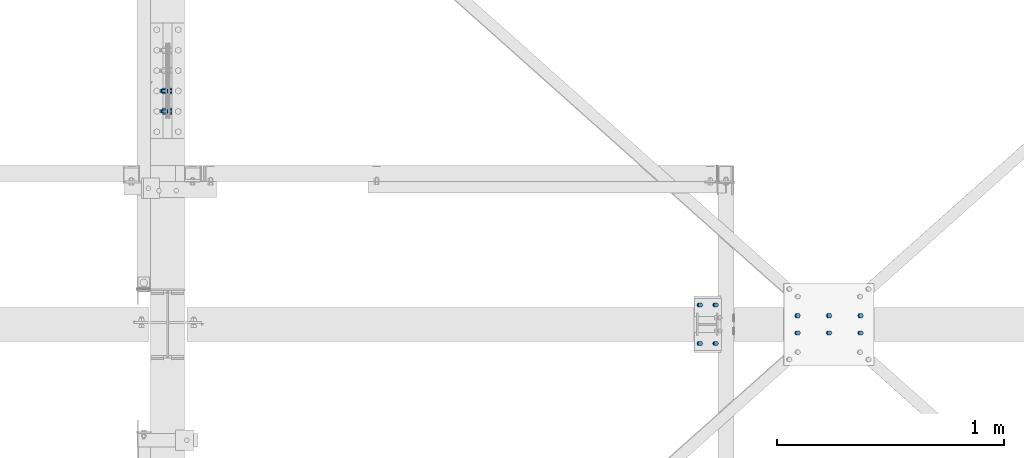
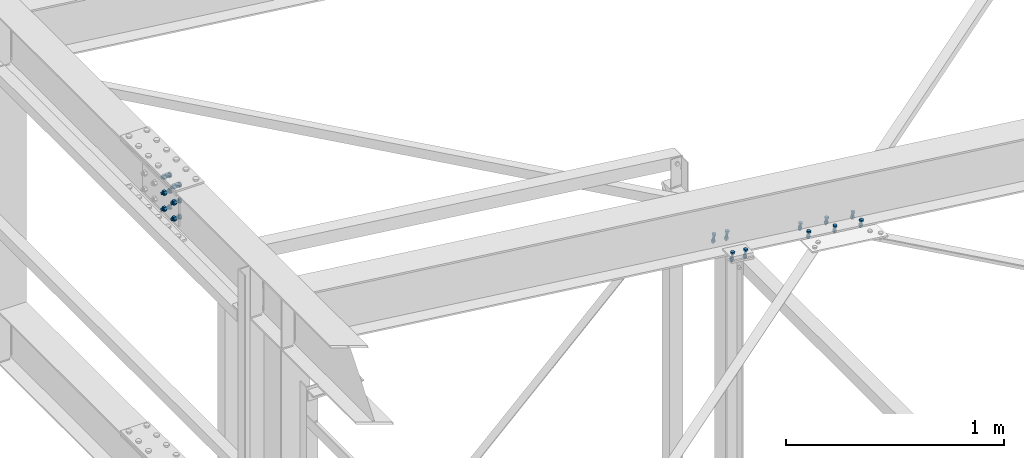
# One storey, part 160 of 3134: 4 mechanical fasteners, 3 elements without a shape of their own.
"""IFC2X3 building model written with IfcOpenShell, lengths in millimetres."""

from ifc_helpers import new_model, si_unit, frame, origin_with_axes, place, context, subcontext, project, spatial, faceted_brep, source, transform, mapped, material, type_object, element, aggregate, save


model = new_model("IFC2X3")

# Units and contexts
model_context = context("Model", 3, precision=1e-05, world=origin_with_axes())
body_context = subcontext(model_context, "Body", "Model", "MODEL_VIEW")
ifc_project = project(units=[si_unit("LENGTHUNIT", "METRE", prefix="MILLI"), si_unit("AREAUNIT", "SQUARE_METRE"), si_unit("VOLUMEUNIT", "CUBIC_METRE"), si_unit("MASSUNIT", "GRAM", prefix="KILO"), si_unit("TIMEUNIT", "SECOND"), si_unit("PLANEANGLEUNIT", "RADIAN"), si_unit("SOLIDANGLEUNIT", "STERADIAN"), si_unit("THERMODYNAMICTEMPERATUREUNIT", "DEGREE_CELSIUS"), si_unit("LUMINOUSINTENSITYUNIT", "LUMEN")], contexts=[model_context])

# Site, building, storey
site_placement = place(None, origin_with_axes())
site = spatial("IfcSite", under=ifc_project, at=site_placement, CompositionType="ELEMENT")
building_placement = place(site_placement, origin_with_axes())
building = spatial("IfcBuilding", under=site, at=building_placement, Name="Undefined", CompositionType="ELEMENT")
storey_placement = place(building_placement, origin_with_axes())
storey = spatial("IfcBuildingStorey", under=building, at=storey_placement, Name="Undefined", CompositionType="ELEMENT", Elevation=0.0)

# Assembly, mechanical fasteners
assembly_1_placement = place(storey_placement, origin_with_axes())
assembly_1 = element("IfcElementAssembly", 1, at=assembly_1_placement, inside=storey, Name="HEA100", AssemblyPlace="NOTDEFINED", PredefinedType="RIGID_FRAME")
ifc_material = material(Name="8.8")
mechanical_fastener_type = type_object("IfcMechanicalFastenerType", Name="Bolt assembly")
shared_shape_1 = source(origin_with_axes(), body_context, "Body", "Brep", [
    faceted_brep([(10.9696551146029, -36.0009821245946, 0.0), (5.48482755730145, -36.0009821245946, 9.5), (-5.48482755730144, -36.0009821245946, 9.5), (-10.9696551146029, -36.0009821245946, 1.34339530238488e-15), (-5.48482755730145, -36.0009821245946, -9.5), (5.48482755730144, -36.0009821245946, -9.50000000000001), (5.48482755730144, -28.0009821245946, -9.50000000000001), (-5.48482755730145, -28.0009821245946, -9.5), (-10.9696551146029, -28.0009821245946, 1.34339530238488e-15), (-5.48482755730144, -28.0009821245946, 9.5), (5.48482755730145, -28.0009821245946, 9.5), (10.9696551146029, -28.0009821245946, 0.0), (6.0, -28.0009821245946, 0.0), (5.19615242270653, -28.0009821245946, 3.00000000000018), (2.99999999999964, -28.0009821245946, 5.19615242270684), (-6.21801588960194e-13, -28.0009821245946, 6.0), (-3.00000000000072, -28.0009821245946, 5.19615242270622), (-5.19615242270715, -28.0009821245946, 2.9999999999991), (-6.0, -28.0009821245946, -1.24360317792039e-12), (-5.19615242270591, -28.0009821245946, -3.00000000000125), (-2.99999999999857, -28.0009821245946, -5.19615242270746), (1.85874342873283e-12, -28.0009821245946, -6.0), (3.00000000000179, -28.0009821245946, -5.1961524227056), (5.19615242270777, -28.0009821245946, -2.99999999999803), (5.19615242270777, 16.9990178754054, -2.99999999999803), (3.00000000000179, 16.9990178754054, -5.1961524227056), (1.85874342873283e-12, 16.9990178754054, -6.0), (-2.99999999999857, 16.9990178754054, -5.19615242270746), (-5.19615242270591, 16.9990178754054, -3.00000000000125), (-6.0, 16.9990178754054, -1.24360317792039e-12), (-5.19615242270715, 16.9990178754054, 2.9999999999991), (-3.00000000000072, 16.9990178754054, 5.19615242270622), (-6.21801588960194e-13, 16.9990178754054, 6.0), (2.99999999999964, 16.9990178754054, 5.19615242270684), (5.19615242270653, 16.9990178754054, 3.00000000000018), (6.0, 16.9990178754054, 0.0), (10.9696551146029, -0.000982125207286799, 0.0), (5.48482755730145, -0.000982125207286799, 9.5), (-5.48482755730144, -0.000982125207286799, 9.5), (-10.9696551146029, -0.000982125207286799, 1.34339530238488e-15), (-5.48482755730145, -0.000982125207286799, -9.5), (5.48482755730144, -0.000982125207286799, -9.50000000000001), (5.48482755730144, 9.99901787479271, -9.50000000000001), (-5.48482755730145, 9.99901787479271, -9.5), (-10.9696551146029, 9.99901787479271, 1.34339530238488e-15), (-5.48482755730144, 9.99901787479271, 9.5), (5.48482755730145, 9.99901787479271, 9.5), (10.9696551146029, 9.99901787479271, 0.0)], [[[0, 1, 2, 3, 4, 5]], [[6, 7, 8, 9, 10, 11]], [[0, 11, 10, 1]], [[1, 10, 9, 2]], [[2, 9, 8, 3]], [[3, 8, 7, 4]], [[4, 7, 6, 5]], [[5, 6, 11, 0]], [[12, 13, 14, 15, 16, 17, 18, 19, 20, 21, 22, 23]], [[24, 25, 26, 27, 28, 29, 30, 31, 32, 33, 34, 35]], [[12, 35, 34, 13]], [[13, 34, 33, 14]], [[14, 33, 32, 15]], [[15, 32, 31, 16]], [[16, 31, 30, 17]], [[17, 30, 29, 18]], [[18, 29, 28, 19]], [[19, 28, 27, 20]], [[20, 27, 26, 21]], [[21, 26, 25, 22]], [[22, 25, 24, 23]], [[23, 24, 35, 12]], [[36, 37, 38, 39, 40, 41]], [[42, 43, 44, 45, 46, 47]], [[36, 47, 46, 37]], [[37, 46, 45, 38]], [[38, 45, 44, 39]], [[39, 44, 43, 40]], [[40, 43, 42, 41]], [[41, 42, 47, 36]]]),
    faceted_brep([(7.0, -27.9009821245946, 0.0), (6.06217782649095, -27.9009821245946, 3.50000000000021), (3.49999999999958, -27.9009821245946, 6.06217782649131), (-7.25435187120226e-13, -27.9009821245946, 7.0), (-3.50000000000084, -27.9009821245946, 6.06217782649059), (-6.06217782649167, -27.9009821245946, 3.49999999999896), (-7.0, -27.9009821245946, -1.45087037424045e-12), (-6.06217782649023, -27.9009821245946, -3.50000000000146), (-3.49999999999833, -27.9009821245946, -6.06217782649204), (2.1685340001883e-12, -27.9009821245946, -7.0), (3.50000000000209, -27.9009821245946, -6.06217782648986), (6.0621778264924, -27.9009821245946, -3.4999999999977), (6.0621778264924, -19.9009821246, -3.4999999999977), (3.50000000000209, -19.9009821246, -6.06217782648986), (2.1685340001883e-12, -19.9009821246, -7.0), (-3.49999999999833, -19.9009821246, -6.06217782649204), (-6.06217782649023, -19.9009821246, -3.50000000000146), (-7.0, -19.9009821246, -1.45087037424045e-12), (-6.06217782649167, -19.9009821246, 3.49999999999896), (-3.50000000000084, -19.9009821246, 6.06217782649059), (-7.25435187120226e-13, -19.9009821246, 7.0), (3.49999999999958, -19.9009821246, 6.06217782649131), (6.06217782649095, -19.9009821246, 3.50000000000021), (7.0, -19.9009821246, 0.0), (7.0, -10.1009821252, 0.0), (6.06217782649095, -10.1009821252, 3.50000000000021), (3.49999999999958, -10.1009821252, 6.06217782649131), (-7.25435187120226e-13, -10.1009821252, 7.0), (-3.50000000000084, -10.1009821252, 6.06217782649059), (-6.06217782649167, -10.1009821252, 3.49999999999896), (-7.0, -10.1009821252, -1.45087037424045e-12), (-6.06217782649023, -10.1009821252, -3.50000000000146), (-3.49999999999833, -10.1009821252, -6.06217782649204), (2.1685340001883e-12, -10.1009821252, -7.0), (3.50000000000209, -10.1009821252, -6.06217782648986), (6.0621778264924, -10.1009821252, -3.4999999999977), (6.0621778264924, -0.000982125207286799, -3.4999999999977), (3.50000000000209, -0.000982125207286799, -6.06217782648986), (2.1685340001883e-12, -0.000982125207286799, -7.0), (-3.49999999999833, -0.000982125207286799, -6.06217782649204), (-6.06217782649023, -0.000982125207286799, -3.50000000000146), (-7.0, -0.000982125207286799, -1.45087037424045e-12), (-6.06217782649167, -0.000982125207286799, 3.49999999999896), (-3.50000000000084, -0.000982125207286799, 6.06217782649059), (-7.25435187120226e-13, -0.000982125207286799, 7.0), (3.49999999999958, -0.000982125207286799, 6.06217782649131), (6.06217782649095, -0.000982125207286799, 3.50000000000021), (7.0, -0.000982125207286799, 0.0)], [[[0, 1, 2, 3, 4, 5, 6, 7, 8, 9, 10, 11]], [[12, 13, 14, 15, 16, 17, 18, 19, 20, 21, 22, 23]], [[0, 23, 22, 1]], [[1, 22, 21, 2]], [[2, 21, 20, 3]], [[3, 20, 19, 4]], [[4, 19, 18, 5]], [[5, 18, 17, 6]], [[6, 17, 16, 7]], [[7, 16, 15, 8]], [[8, 15, 14, 9]], [[9, 14, 13, 10]], [[10, 13, 12, 11]], [[11, 12, 23, 0]], [[24, 25, 26, 27, 28, 29, 30, 31, 32, 33, 34, 35]], [[36, 37, 38, 39, 40, 41, 42, 43, 44, 45, 46, 47]], [[24, 47, 46, 25]], [[25, 46, 45, 26]], [[26, 45, 44, 27]], [[27, 44, 43, 28]], [[28, 43, 42, 29]], [[29, 42, 41, 30]], [[30, 41, 40, 31]], [[31, 40, 39, 32]], [[32, 39, 38, 33]], [[33, 38, 37, 34]], [[34, 37, 36, 35]], [[35, 36, 47, 24]]]),
])
mechanical_fastener_1_placement = place(assembly_1_placement, frame((58222.2532611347, 27335.0, 5223.02085935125), z_axis=(0.0, 1.0, 0.0), x_axis=(0.992623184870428, 0.0, -0.121240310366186)))
mechanical_fastener_1 = element("IfcMechanicalFastener", 2, at=mechanical_fastener_1_placement, type_object=mechanical_fastener_type, material=ifc_material, Name="Bolt assembly", NominalDiameter=12.0, NominalLength=45.0, context=body_context, shape_type="MappedRepresentation", body=[
    mapped(shared_shape_1, transform((0.0, 0.0, 0.0))),
    mapped(shared_shape_1, transform((70.0000000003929, -2.94676283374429e-10, 0.0))),
])
mechanical_fastener_2_placement = place(assembly_1_placement, frame((58222.2532611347, 27165.0, 5223.02085935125), z_axis=(0.0, 1.0, 0.0), x_axis=(0.992623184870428, 0.0, -0.121240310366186)))
mechanical_fastener_2 = element("IfcMechanicalFastener", 3, at=mechanical_fastener_2_placement, type_object=mechanical_fastener_type, material=ifc_material, Name="Bolt assembly", NominalDiameter=12.0, NominalLength=45.0, context=body_context, shape_type="MappedRepresentation", body=[
    mapped(shared_shape_1, transform((0.0, 0.0, 0.0))),
    mapped(shared_shape_1, transform((70.0000000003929, -2.94676283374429e-10, 0.0))),
])
aggregate(assembly_1, [mechanical_fastener_1, mechanical_fastener_2])

# Assembly, mechanical fastener
assembly_2_placement = place(storey_placement, origin_with_axes())
assembly_2 = element("IfcElementAssembly", 4, at=assembly_2_placement, inside=storey, Name="300", AssemblyPlace="NOTDEFINED", PredefinedType="RIGID_FRAME")
shared_shape_2 = source(origin_with_axes(), body_context, "Body", "Brep", [
    faceted_brep([(10.9696551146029, -17.1999998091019, 0.0), (5.48482755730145, -17.1999998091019, 9.5), (-5.48482755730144, -17.1999998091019, 9.5), (-10.9696551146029, -17.1999998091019, 1.34339530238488e-15), (-5.48482755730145, -17.1999998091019, -9.5), (5.48482755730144, -17.1999998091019, -9.50000000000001), (5.48482755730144, -9.19999978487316, -9.50000000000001), (-5.48482755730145, -9.19999978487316, -9.5), (-10.9696551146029, -9.19999978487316, 1.34339530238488e-15), (-5.48482755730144, -9.19999978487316, 9.5), (5.48482755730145, -9.19999978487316, 9.5), (10.9696551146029, -9.19999978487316, 0.0), (6.0, -9.19999978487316, 0.0), (5.19615242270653, -9.19999978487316, 3.00000000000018), (2.99999999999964, -9.19999978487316, 5.19615242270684), (-6.21801588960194e-13, -9.19999978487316, 6.0), (-3.00000000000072, -9.19999978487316, 5.19615242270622), (-5.19615242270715, -9.19999978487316, 2.9999999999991), (-6.0, -9.19999978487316, -1.24360317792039e-12), (-5.19615242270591, -9.19999978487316, -3.00000000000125), (-2.99999999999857, -9.19999978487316, -5.19615242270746), (1.85874342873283e-12, -9.19999978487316, -6.0), (3.00000000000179, -9.19999978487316, -5.1961524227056), (5.19615242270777, -9.19999978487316, -2.99999999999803), (5.19615242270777, 25.8000002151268, -2.99999999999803), (3.00000000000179, 25.8000002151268, -5.1961524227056), (1.85874342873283e-12, 25.8000002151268, -6.0), (-2.99999999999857, 25.8000002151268, -5.19615242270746), (-5.19615242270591, 25.8000002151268, -3.00000000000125), (-6.0, 25.8000002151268, -1.24360317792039e-12), (-5.19615242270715, 25.8000002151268, 2.9999999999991), (-3.00000000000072, 25.8000002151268, 5.19615242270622), (-6.21801588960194e-13, 25.8000002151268, 6.0), (2.99999999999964, 25.8000002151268, 5.19615242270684), (5.19615242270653, 25.8000002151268, 3.00000000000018), (6.0, 25.8000002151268, 0.0), (10.9696551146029, 8.0, 0.0), (5.48482755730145, 8.0, 9.5), (-5.48482755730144, 8.0, 9.5), (-10.9696551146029, 8.0, 1.34339530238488e-15), (-5.48482755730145, 8.0, -9.5), (5.48482755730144, 8.0, -9.50000000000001), (5.48482755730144, 18.0, -9.50000000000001), (-5.48482755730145, 18.0, -9.5), (-10.9696551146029, 18.0, 1.34339530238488e-15), (-5.48482755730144, 18.0, 9.5), (5.48482755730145, 18.0, 9.5), (10.9696551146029, 18.0, 0.0)], [[[0, 1, 2, 3, 4, 5]], [[6, 7, 8, 9, 10, 11]], [[0, 11, 10, 1]], [[1, 10, 9, 2]], [[2, 9, 8, 3]], [[3, 8, 7, 4]], [[4, 7, 6, 5]], [[5, 6, 11, 0]], [[12, 13, 14, 15, 16, 17, 18, 19, 20, 21, 22, 23]], [[24, 25, 26, 27, 28, 29, 30, 31, 32, 33, 34, 35]], [[12, 35, 34, 13]], [[13, 34, 33, 14]], [[14, 33, 32, 15]], [[15, 32, 31, 16]], [[16, 31, 30, 17]], [[17, 30, 29, 18]], [[18, 29, 28, 19]], [[19, 28, 27, 20]], [[20, 27, 26, 21]], [[21, 26, 25, 22]], [[22, 25, 24, 23]], [[23, 24, 35, 12]], [[36, 37, 38, 39, 40, 41]], [[42, 43, 44, 45, 46, 47]], [[36, 47, 46, 37]], [[37, 46, 45, 38]], [[38, 45, 44, 39]], [[39, 44, 43, 40]], [[40, 43, 42, 41]], [[41, 42, 47, 36]]]),
    faceted_brep([(7.0, -0.1, 0.0), (6.06217782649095, -0.1, 3.50000000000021), (3.49999999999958, -0.1, 6.06217782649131), (-7.25435187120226e-13, -0.1, 7.0), (-3.50000000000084, -0.1, 6.06217782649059), (-6.06217782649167, -0.1, 3.49999999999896), (-7.0, -0.1, -1.45087037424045e-12), (-6.06217782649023, -0.1, -3.50000000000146), (-3.49999999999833, -0.1, -6.06217782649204), (2.1685340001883e-12, -0.1, -7.0), (3.50000000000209, -0.1, -6.06217782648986), (6.0621778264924, -0.1, -3.4999999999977), (6.0621778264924, 8.0000000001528, -3.4999999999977), (3.50000000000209, 8.0000000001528, -6.06217782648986), (2.1685340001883e-12, 8.0000000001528, -7.0), (-3.49999999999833, 8.0000000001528, -6.06217782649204), (-6.06217782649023, 8.0000000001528, -3.50000000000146), (-7.0, 8.0000000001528, -1.45087037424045e-12), (-6.06217782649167, 8.0000000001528, 3.49999999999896), (-3.50000000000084, 8.0000000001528, 6.06217782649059), (-7.25435187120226e-13, 8.0000000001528, 7.0), (3.49999999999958, 8.0000000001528, 6.06217782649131), (6.06217782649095, 8.0000000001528, 3.50000000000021), (7.0, 8.0000000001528, 0.0), (7.0, -9.09999980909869, 0.0), (6.06217782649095, -9.09999980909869, 3.50000000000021), (3.49999999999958, -9.09999980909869, 6.06217782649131), (-7.25435187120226e-13, -9.09999980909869, 7.0), (-3.50000000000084, -9.09999980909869, 6.06217782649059), (-6.06217782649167, -9.09999980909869, 3.49999999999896), (-7.0, -9.09999980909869, -1.45087037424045e-12), (-6.06217782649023, -9.09999980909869, -3.50000000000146), (-3.49999999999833, -9.09999980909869, -6.06217782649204), (2.1685340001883e-12, -9.09999980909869, -7.0), (3.50000000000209, -9.09999980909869, -6.06217782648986), (6.0621778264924, -9.09999980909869, -3.4999999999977), (6.0621778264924, 0.0999999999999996, -3.4999999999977), (3.50000000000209, 0.0999999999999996, -6.06217782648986), (2.1685340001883e-12, 0.0999999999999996, -7.0), (-3.49999999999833, 0.0999999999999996, -6.06217782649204), (-6.06217782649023, 0.0999999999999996, -3.50000000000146), (-7.0, 0.0999999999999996, -1.45087037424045e-12), (-6.06217782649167, 0.0999999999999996, 3.49999999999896), (-3.50000000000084, 0.0999999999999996, 6.06217782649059), (-7.25435187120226e-13, 0.0999999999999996, 7.0), (3.49999999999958, 0.0999999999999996, 6.06217782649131), (6.06217782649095, 0.0999999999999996, 3.50000000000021), (7.0, 0.0999999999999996, 0.0)], [[[0, 1, 2, 3, 4, 5, 6, 7, 8, 9, 10, 11]], [[12, 13, 14, 15, 16, 17, 18, 19, 20, 21, 22, 23]], [[0, 23, 22, 1]], [[1, 22, 21, 2]], [[2, 21, 20, 3]], [[3, 20, 19, 4]], [[4, 19, 18, 5]], [[5, 18, 17, 6]], [[6, 17, 16, 7]], [[7, 16, 15, 8]], [[8, 15, 14, 9]], [[9, 14, 13, 10]], [[10, 13, 12, 11]], [[11, 12, 23, 0]], [[24, 25, 26, 27, 28, 29, 30, 31, 32, 33, 34, 35]], [[36, 37, 38, 39, 40, 41, 42, 43, 44, 45, 46, 47]], [[24, 47, 46, 25]], [[25, 46, 45, 26]], [[26, 45, 44, 27]], [[27, 44, 43, 28]], [[28, 43, 42, 29]], [[29, 42, 41, 30]], [[30, 41, 40, 31]], [[31, 40, 39, 32]], [[32, 39, 38, 33]], [[33, 38, 37, 34]], [[34, 37, 36, 35]], [[35, 36, 47, 24]]]),
])
mechanical_fastener_3_placement = place(assembly_2_placement, frame((58933.2022067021, 27250.0, 5146.25993625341), z_axis=(0.0, -1.0, 0.0), x_axis=(-0.992623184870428, 0.0, 0.121240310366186)))
mechanical_fastener_3 = element("IfcMechanicalFastener", 5, at=mechanical_fastener_3_placement, type_object=mechanical_fastener_type, material=ifc_material, Name="Bolt assembly", NominalDiameter=12.0, NominalLength=35.0, context=body_context, shape_type="MappedRepresentation", body=[
    mapped(shared_shape_2, transform((0.0, 0.0, -38.0))),
    mapped(shared_shape_2, transform((140.000000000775, 5.85714587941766e-10, -38.0))),
    mapped(shared_shape_2, transform((279.999999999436, -4.74756234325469e-10, -38.0))),
    mapped(shared_shape_2, transform((0.0, 0.0, 38.0))),
    mapped(shared_shape_2, transform((140.000000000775, 5.85714587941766e-10, 38.0))),
    mapped(shared_shape_2, transform((279.999999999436, -4.74756234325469e-10, 38.0))),
])
aggregate(assembly_2, [mechanical_fastener_3])

assembly_3_placement = place(storey_placement, origin_with_axes())
assembly_3 = element("IfcElementAssembly", 6, at=assembly_3_placement, inside=storey, Name="300", AssemblyPlace="NOTDEFINED", PredefinedType="RIGID_FRAME")
shared_shape_3 = source(origin_with_axes(), body_context, "Body", "Brep", [
    faceted_brep([(13.856406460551, -19.0499999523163, 0.0), (6.92820323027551, -19.0499999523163, 12.0), (-6.92820323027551, -19.0499999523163, 12.0), (-13.856406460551, -19.0499999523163, 1.69692038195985e-15), (-6.92820323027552, -19.0499999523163, -12.0), (6.9282032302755, -19.0499999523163, -12.0), (6.9282032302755, -9.04999995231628, -12.0), (-6.92820323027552, -9.04999995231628, -12.0), (-13.856406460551, -9.04999995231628, 1.69692038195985e-15), (-6.92820323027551, -9.04999995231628, 12.0), (6.92820323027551, -9.04999995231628, 12.0), (13.856406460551, -9.04999995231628, 0.0), (8.0, -9.04999995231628, 0.0), (6.92820323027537, -9.04999995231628, 4.00000000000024), (3.99999999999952, -9.04999995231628, 6.92820323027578), (-8.29068785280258e-13, -9.04999995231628, 8.0), (-4.00000000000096, -9.04999995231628, 6.92820323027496), (-6.9282032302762, -9.04999995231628, 3.99999999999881), (-8.0, -9.04999995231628, -1.65813757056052e-12), (-6.92820323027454, -9.04999995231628, -4.00000000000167), (-3.99999999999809, -9.04999995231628, -6.92820323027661), (2.47832457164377e-12, -9.04999995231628, -8.0), (4.00000000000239, -9.04999995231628, -6.92820323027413), (6.92820323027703, -9.04999995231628, -3.99999999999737), (6.92820323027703, 30.9500000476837, -3.99999999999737), (4.00000000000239, 30.9500000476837, -6.92820323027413), (2.47832457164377e-12, 30.9500000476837, -8.0), (-3.99999999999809, 30.9500000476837, -6.92820323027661), (-6.92820323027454, 30.9500000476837, -4.00000000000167), (-8.0, 30.9500000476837, -1.65813757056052e-12), (-6.9282032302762, 30.9500000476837, 3.99999999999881), (-4.00000000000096, 30.9500000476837, 6.92820323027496), (-8.29068785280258e-13, 30.9500000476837, 8.0), (3.99999999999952, 30.9500000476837, 6.92820323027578), (6.92820323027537, 30.9500000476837, 4.00000000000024), (8.0, 30.9500000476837, 0.0), (13.856406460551, 9.04999995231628, 0.0), (6.92820323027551, 9.04999995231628, 12.0), (-6.92820323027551, 9.04999995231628, 12.0), (-13.856406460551, 9.04999995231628, 1.69692038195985e-15), (-6.92820323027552, 9.04999995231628, -12.0), (6.9282032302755, 9.04999995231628, -12.0), (6.9282032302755, 22.0499999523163, -12.0), (-6.92820323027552, 22.0499999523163, -12.0), (-13.856406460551, 22.0499999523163, 1.69692038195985e-15), (-6.92820323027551, 22.0499999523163, 12.0), (6.92820323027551, 22.0499999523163, 12.0), (13.856406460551, 22.0499999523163, 0.0)], [[[0, 1, 2, 3, 4, 5]], [[6, 7, 8, 9, 10, 11]], [[0, 11, 10, 1]], [[1, 10, 9, 2]], [[2, 9, 8, 3]], [[3, 8, 7, 4]], [[4, 7, 6, 5]], [[5, 6, 11, 0]], [[12, 13, 14, 15, 16, 17, 18, 19, 20, 21, 22, 23]], [[24, 25, 26, 27, 28, 29, 30, 31, 32, 33, 34, 35]], [[12, 35, 34, 13]], [[13, 34, 33, 14]], [[14, 33, 32, 15]], [[15, 32, 31, 16]], [[16, 31, 30, 17]], [[17, 30, 29, 18]], [[18, 29, 28, 19]], [[19, 28, 27, 20]], [[20, 27, 26, 21]], [[21, 26, 25, 22]], [[22, 25, 24, 23]], [[23, 24, 35, 12]], [[36, 37, 38, 39, 40, 41]], [[42, 43, 44, 45, 46, 47]], [[36, 47, 46, 37]], [[37, 46, 45, 38]], [[38, 45, 44, 39]], [[39, 44, 43, 40]], [[40, 43, 42, 41]], [[41, 42, 47, 36]]]),
    faceted_brep([(9.0, -8.94999995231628, 0.0), (7.79422863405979, -8.94999995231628, 4.50000000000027), (4.49999999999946, -8.94999995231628, 7.79422863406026), (-9.3270238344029e-13, -8.94999995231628, 9.0), (-4.50000000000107, -8.94999995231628, 7.79422863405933), (-7.79422863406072, -8.94999995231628, 4.49999999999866), (-9.0, -8.94999995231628, -1.86540476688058e-12), (-7.79422863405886, -8.94999995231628, -4.50000000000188), (-4.49999999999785, -8.94999995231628, -7.79422863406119), (2.78811514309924e-12, -8.94999995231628, -9.0), (4.50000000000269, -8.94999995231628, -7.7942286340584), (7.79422863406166, -8.94999995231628, -4.49999999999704), (7.79422863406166, -2.94999995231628, -4.49999999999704), (4.50000000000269, -2.94999995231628, -7.7942286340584), (2.78811514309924e-12, -2.94999995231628, -9.0), (-4.49999999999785, -2.94999995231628, -7.79422863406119), (-7.79422863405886, -2.94999995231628, -4.50000000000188), (-9.0, -2.94999995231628, -1.86540476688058e-12), (-7.79422863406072, -2.94999995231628, 4.49999999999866), (-4.50000000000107, -2.94999995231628, 7.79422863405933), (-9.3270238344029e-13, -2.94999995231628, 9.0), (4.49999999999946, -2.94999995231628, 7.79422863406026), (7.79422863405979, -2.94999995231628, 4.50000000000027), (9.0, -2.94999995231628, 0.0), (9.0, -3.04999995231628, 0.0), (7.79422863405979, -3.04999995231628, 4.50000000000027), (4.49999999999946, -3.04999995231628, 7.79422863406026), (-9.3270238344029e-13, -3.04999995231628, 9.0), (-4.50000000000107, -3.04999995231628, 7.79422863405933), (-7.79422863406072, -3.04999995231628, 4.49999999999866), (-9.0, -3.04999995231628, -1.86540476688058e-12), (-7.79422863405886, -3.04999995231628, -4.50000000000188), (-4.49999999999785, -3.04999995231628, -7.79422863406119), (2.78811514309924e-12, -3.04999995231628, -9.0), (4.50000000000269, -3.04999995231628, -7.7942286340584), (7.79422863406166, -3.04999995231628, -4.49999999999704), (7.79422863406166, 3.04999995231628, -4.49999999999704), (4.50000000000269, 3.04999995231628, -7.7942286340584), (2.78811514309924e-12, 3.04999995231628, -9.0), (-4.49999999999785, 3.04999995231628, -7.79422863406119), (-7.79422863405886, 3.04999995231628, -4.50000000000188), (-9.0, 3.04999995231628, -1.86540476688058e-12), (-7.79422863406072, 3.04999995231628, 4.49999999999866), (-4.50000000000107, 3.04999995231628, 7.79422863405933), (-9.3270238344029e-13, 3.04999995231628, 9.0), (4.49999999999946, 3.04999995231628, 7.79422863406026), (7.79422863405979, 3.04999995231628, 4.50000000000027), (9.0, 3.04999995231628, 0.0), (9.0, 2.95000000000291, 0.0), (7.79422863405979, 2.95000000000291, 4.50000000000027), (4.49999999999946, 2.95000000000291, 7.79422863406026), (-9.3270238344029e-13, 2.95000000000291, 9.0), (-4.50000000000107, 2.95000000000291, 7.79422863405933), (-7.79422863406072, 2.95000000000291, 4.49999999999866), (-9.0, 2.95000000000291, -1.86540476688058e-12), (-7.79422863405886, 2.95000000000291, -4.50000000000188), (-4.49999999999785, 2.95000000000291, -7.79422863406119), (2.78811514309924e-12, 2.95000000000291, -9.0), (4.50000000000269, 2.95000000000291, -7.7942286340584), (7.79422863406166, 2.95000000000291, -4.49999999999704), (7.79422863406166, 9.04999995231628, -4.49999999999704), (4.50000000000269, 9.04999995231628, -7.7942286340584), (2.78811514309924e-12, 9.04999995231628, -9.0), (-4.49999999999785, 9.04999995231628, -7.79422863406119), (-7.79422863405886, 9.04999995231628, -4.50000000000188), (-9.0, 9.04999995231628, -1.86540476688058e-12), (-7.79422863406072, 9.04999995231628, 4.49999999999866), (-4.50000000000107, 9.04999995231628, 7.79422863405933), (-9.3270238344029e-13, 9.04999995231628, 9.0), (4.49999999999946, 9.04999995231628, 7.79422863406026), (7.79422863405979, 9.04999995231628, 4.50000000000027), (9.0, 9.04999995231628, 0.0)], [[[0, 1, 2, 3, 4, 5, 6, 7, 8, 9, 10, 11]], [[12, 13, 14, 15, 16, 17, 18, 19, 20, 21, 22, 23]], [[0, 23, 22, 1]], [[1, 22, 21, 2]], [[2, 21, 20, 3]], [[3, 20, 19, 4]], [[4, 19, 18, 5]], [[5, 18, 17, 6]], [[6, 17, 16, 7]], [[7, 16, 15, 8]], [[8, 15, 14, 9]], [[9, 14, 13, 10]], [[10, 13, 12, 11]], [[11, 12, 23, 0]], [[24, 25, 26, 27, 28, 29, 30, 31, 32, 33, 34, 35]], [[36, 37, 38, 39, 40, 41, 42, 43, 44, 45, 46, 47]], [[24, 47, 46, 25]], [[25, 46, 45, 26]], [[26, 45, 44, 27]], [[27, 44, 43, 28]], [[28, 43, 42, 29]], [[29, 42, 41, 30]], [[30, 41, 40, 31]], [[31, 40, 39, 32]], [[32, 39, 38, 33]], [[33, 38, 37, 34]], [[34, 37, 36, 35]], [[35, 36, 47, 24]], [[48, 49, 50, 51, 52, 53, 54, 55, 56, 57, 58, 59]], [[60, 61, 62, 63, 64, 65, 66, 67, 68, 69, 70, 71]], [[48, 71, 70, 49]], [[49, 70, 69, 50]], [[50, 69, 68, 51]], [[51, 68, 67, 52]], [[52, 67, 66, 53]], [[53, 66, 65, 54]], [[54, 65, 64, 55]], [[55, 64, 63, 56]], [[56, 63, 62, 57]], [[57, 62, 61, 58]], [[58, 61, 60, 59]], [[59, 60, 71, 48]]]),
])
mechanical_fastener_4_placement = place(assembly_3_placement, frame((55875.0, 28189.9, 5741.5), z_axis=(0.0, 0.0, 1.0), x_axis=(0.0, 1.0, 0.0)))
mechanical_fastener_4 = element("IfcMechanicalFastener", 7, at=mechanical_fastener_4_placement, type_object=mechanical_fastener_type, material=ifc_material, Name="Bolt assembly", NominalDiameter=16.0, NominalLength=40.0, context=body_context, shape_type="MappedRepresentation", body=[
    mapped(shared_shape_3, transform((0.0, 0.0, -90.0))),
    mapped(shared_shape_3, transform((90.0, 0.0, -90.0))),
    mapped(shared_shape_3, transform((0.0, 0.0, 0.0))),
    mapped(shared_shape_3, transform((90.0, 0.0, 0.0))),
    mapped(shared_shape_3, transform((0.0, 0.0, 90.0))),
    mapped(shared_shape_3, transform((90.0, 0.0, 90.0))),
])
aggregate(assembly_3, [mechanical_fastener_4])

save(model, "model.ifc")
